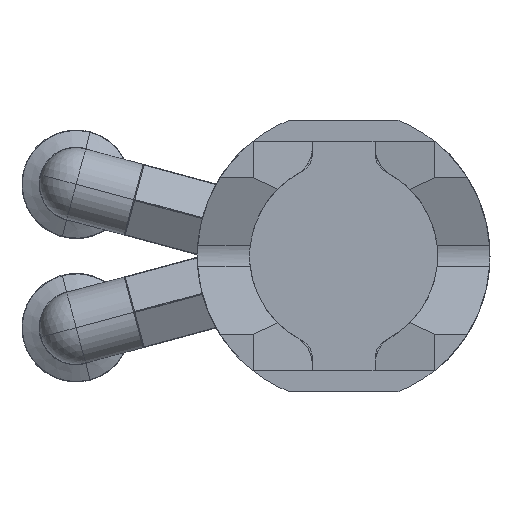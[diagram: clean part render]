
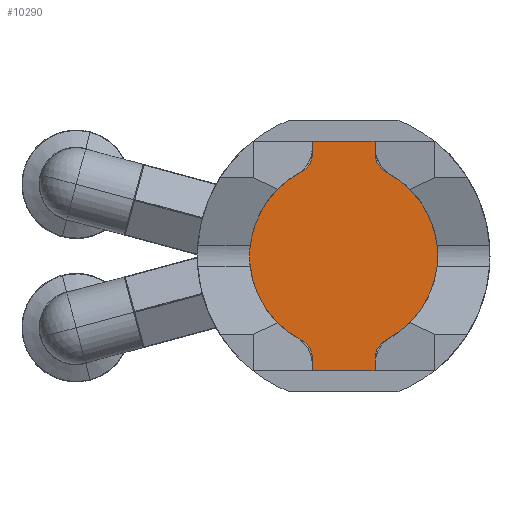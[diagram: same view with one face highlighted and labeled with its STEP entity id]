
A CAD part, front view. The second image highlights one B-rep face of the part: STEP entity #10290.
In plain terms, the highlighted planar face has unit normal (0, -1, 0).
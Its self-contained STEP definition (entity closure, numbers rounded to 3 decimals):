
#261 = VECTOR ( 'NONE', #3266, 1000. ) ;
#566 = CARTESIAN_POINT ( 'NONE',  ( 3., 0., 11. ) ) ;
#647 = DIRECTION ( 'NONE',  ( 0., -1., 0. ) ) ;
#786 = CARTESIAN_POINT ( 'NONE',  ( -4.091, 0., 8.017 ) ) ;
#1001 = VECTOR ( 'NONE', #4997, 1000. ) ;
#1171 = AXIS2_PLACEMENT_3D ( 'NONE', #4366, #4678, #3156 ) ;
#1173 = LINE ( 'NONE', #13319, #2868 ) ;
#1300 = AXIS2_PLACEMENT_3D ( 'NONE', #8917, #16579, #4546 ) ;
#1310 = EDGE_CURVE ( 'NONE', #3175, #6843, #5561, .T. ) ;
#1640 = CIRCLE ( 'NONE', #1300, 2. ) ;
#1721 = EDGE_LOOP ( 'NONE', ( #13738, #3732, #11180, #15252, #4374, #13885, #9481, #16208, #3037, #11906, #15188, #7577 ) ) ;
#2182 = CARTESIAN_POINT ( 'NONE',  ( 0., 0., 0. ) ) ;
#2536 = EDGE_CURVE ( 'NONE', #6937, #3713, #4772, .T. ) ;
#2538 = CIRCLE ( 'NONE', #11622, 9. ) ;
#2868 = VECTOR ( 'NONE', #16270, 1000. ) ;
#3037 = ORIENTED_EDGE ( 'NONE', *, *, #1310, .T. ) ;
#3063 = EDGE_CURVE ( 'NONE', #16101, #5335, #14674, .T. ) ;
#3113 = VECTOR ( 'NONE', #8092, 1000. ) ;
#3156 = DIRECTION ( 'NONE',  ( 0., 0., 1. ) ) ;
#3175 = VERTEX_POINT ( 'NONE', #7641 ) ;
#3266 = DIRECTION ( 'NONE',  ( 0., 0., -1. ) ) ;
#3328 = EDGE_CURVE ( 'NONE', #14134, #6455, #5496, .T. ) ;
#3713 = VERTEX_POINT ( 'NONE', #14869 ) ;
#3732 = ORIENTED_EDGE ( 'NONE', *, *, #3063, .T. ) ;
#3733 = CARTESIAN_POINT ( 'NONE',  ( 3., 0., -9.798 ) ) ;
#4194 = CARTESIAN_POINT ( 'NONE',  ( -5., 0., -9.798 ) ) ;
#4366 = CARTESIAN_POINT ( 'NONE',  ( 5., 0., 9.798 ) ) ;
#4374 = ORIENTED_EDGE ( 'NONE', *, *, #3328, .T. ) ;
#4546 = DIRECTION ( 'NONE',  ( 0., 0., 1. ) ) ;
#4678 = DIRECTION ( 'NONE',  ( 0., 1., 0. ) ) ;
#4756 = CARTESIAN_POINT ( 'NONE',  ( -3., 0., -9.798 ) ) ;
#4772 = LINE ( 'NONE', #9567, #261 ) ;
#4997 = DIRECTION ( 'NONE',  ( 0., 0., -1. ) ) ;
#5299 = CARTESIAN_POINT ( 'NONE',  ( 0., 0., 0. ) ) ;
#5335 = VERTEX_POINT ( 'NONE', #4756 ) ;
#5496 = LINE ( 'NONE', #11722, #8135 ) ;
#5561 = LINE ( 'NONE', #13230, #14608 ) ;
#6224 = LINE ( 'NONE', #17142, #1001 ) ;
#6426 = VERTEX_POINT ( 'NONE', #786 ) ;
#6454 = DIRECTION ( 'NONE',  ( 0., 0., -1. ) ) ;
#6455 = VERTEX_POINT ( 'NONE', #3733 ) ;
#6488 = AXIS2_PLACEMENT_3D ( 'NONE', #11304, #8335, #14605 ) ;
#6843 = VERTEX_POINT ( 'NONE', #566 ) ;
#6937 = VERTEX_POINT ( 'NONE', #18172 ) ;
#7159 = CARTESIAN_POINT ( 'NONE',  ( 4.091, 0., -8.017 ) ) ;
#7240 = CARTESIAN_POINT ( 'NONE',  ( 4.091, 0., 8.017 ) ) ;
#7331 = DIRECTION ( 'NONE',  ( 0., 0., 1. ) ) ;
#7444 = CIRCLE ( 'NONE', #6488, 2. ) ;
#7577 = ORIENTED_EDGE ( 'NONE', *, *, #13926, .T. ) ;
#7641 = CARTESIAN_POINT ( 'NONE',  ( 3., 0., 9.798 ) ) ;
#7806 = CARTESIAN_POINT ( 'NONE',  ( 0., 0., 0. ) ) ;
#7877 = EDGE_CURVE ( 'NONE', #6843, #6937, #11244, .T. ) ;
#8092 = DIRECTION ( 'NONE',  ( -1., 0., 0. ) ) ;
#8135 = VECTOR ( 'NONE', #17945, 1000. ) ;
#8335 = DIRECTION ( 'NONE',  ( 0., 1., 0. ) ) ;
#8367 = EDGE_CURVE ( 'NONE', #11087, #3175, #17777, .T. ) ;
#8385 = CARTESIAN_POINT ( 'NONE',  ( 0., 0., 11. ) ) ;
#8433 = AXIS2_PLACEMENT_3D ( 'NONE', #4194, #8867, #7331 ) ;
#8867 = DIRECTION ( 'NONE',  ( 0., 1., 0. ) ) ;
#8917 = CARTESIAN_POINT ( 'NONE',  ( -5., 0., 9.798 ) ) ;
#9022 = EDGE_CURVE ( 'NONE', #6426, #16101, #2538, .T. ) ;
#9481 = ORIENTED_EDGE ( 'NONE', *, *, #12191, .T. ) ;
#9567 = CARTESIAN_POINT ( 'NONE',  ( -3., 0., 0. ) ) ;
#9670 = EDGE_CURVE ( 'NONE', #17844, #14134, #1173, .T. ) ;
#10042 = AXIS2_PLACEMENT_3D ( 'NONE', #7806, #15677, #14064 ) ;
#10090 = CARTESIAN_POINT ( 'NONE',  ( 3., 0., -11. ) ) ;
#10290 = ADVANCED_FACE ( 'NONE', ( #12414 ), #16903, .F. ) ;
#11087 = VERTEX_POINT ( 'NONE', #7240 ) ;
#11138 = CARTESIAN_POINT ( 'NONE',  ( -4.091, 0., -8.017 ) ) ;
#11180 = ORIENTED_EDGE ( 'NONE', *, *, #14994, .T. ) ;
#11244 = LINE ( 'NONE', #8385, #3113 ) ;
#11304 = CARTESIAN_POINT ( 'NONE',  ( 5., 0., -9.798 ) ) ;
#11622 = AXIS2_PLACEMENT_3D ( 'NONE', #5299, #16118, #16315 ) ;
#11722 = CARTESIAN_POINT ( 'NONE',  ( 3., 0., 0. ) ) ;
#11906 = ORIENTED_EDGE ( 'NONE', *, *, #7877, .T. ) ;
#12191 = EDGE_CURVE ( 'NONE', #15936, #11087, #13339, .T. ) ;
#12414 = FACE_OUTER_BOUND ( 'NONE', #1721, .T. ) ;
#13045 = CARTESIAN_POINT ( 'NONE',  ( -3., 0., -11. ) ) ;
#13230 = CARTESIAN_POINT ( 'NONE',  ( 3., 0., 0. ) ) ;
#13310 = AXIS2_PLACEMENT_3D ( 'NONE', #2182, #647, #6454 ) ;
#13319 = CARTESIAN_POINT ( 'NONE',  ( 0., 0., -11. ) ) ;
#13339 = CIRCLE ( 'NONE', #13310, 9. ) ;
#13364 = EDGE_CURVE ( 'NONE', #6455, #15936, #7444, .T. ) ;
#13738 = ORIENTED_EDGE ( 'NONE', *, *, #9022, .T. ) ;
#13885 = ORIENTED_EDGE ( 'NONE', *, *, #13364, .T. ) ;
#13926 = EDGE_CURVE ( 'NONE', #3713, #6426, #1640, .T. ) ;
#14064 = DIRECTION ( 'NONE',  ( 0., 0., 1. ) ) ;
#14134 = VERTEX_POINT ( 'NONE', #10090 ) ;
#14605 = DIRECTION ( 'NONE',  ( 0., 0., 1. ) ) ;
#14608 = VECTOR ( 'NONE', #18106, 1000. ) ;
#14674 = CIRCLE ( 'NONE', #8433, 2. ) ;
#14869 = CARTESIAN_POINT ( 'NONE',  ( -3., 0., 9.798 ) ) ;
#14994 = EDGE_CURVE ( 'NONE', #5335, #17844, #6224, .T. ) ;
#15188 = ORIENTED_EDGE ( 'NONE', *, *, #2536, .T. ) ;
#15252 = ORIENTED_EDGE ( 'NONE', *, *, #9670, .T. ) ;
#15677 = DIRECTION ( 'NONE',  ( 0., 1., 0. ) ) ;
#15936 = VERTEX_POINT ( 'NONE', #7159 ) ;
#16101 = VERTEX_POINT ( 'NONE', #11138 ) ;
#16118 = DIRECTION ( 'NONE',  ( 0., -1., 0. ) ) ;
#16208 = ORIENTED_EDGE ( 'NONE', *, *, #8367, .T. ) ;
#16270 = DIRECTION ( 'NONE',  ( 1., 0., 0. ) ) ;
#16315 = DIRECTION ( 'NONE',  ( 0., 0., -1. ) ) ;
#16579 = DIRECTION ( 'NONE',  ( 0., 1., 0. ) ) ;
#16903 = PLANE ( 'NONE',  #10042 ) ;
#17142 = CARTESIAN_POINT ( 'NONE',  ( -3., 0., 0. ) ) ;
#17777 = CIRCLE ( 'NONE', #1171, 2. ) ;
#17844 = VERTEX_POINT ( 'NONE', #13045 ) ;
#17945 = DIRECTION ( 'NONE',  ( 0., 0., 1. ) ) ;
#18106 = DIRECTION ( 'NONE',  ( 0., 0., 1. ) ) ;
#18172 = CARTESIAN_POINT ( 'NONE',  ( -3., 0., 11. ) ) ;
